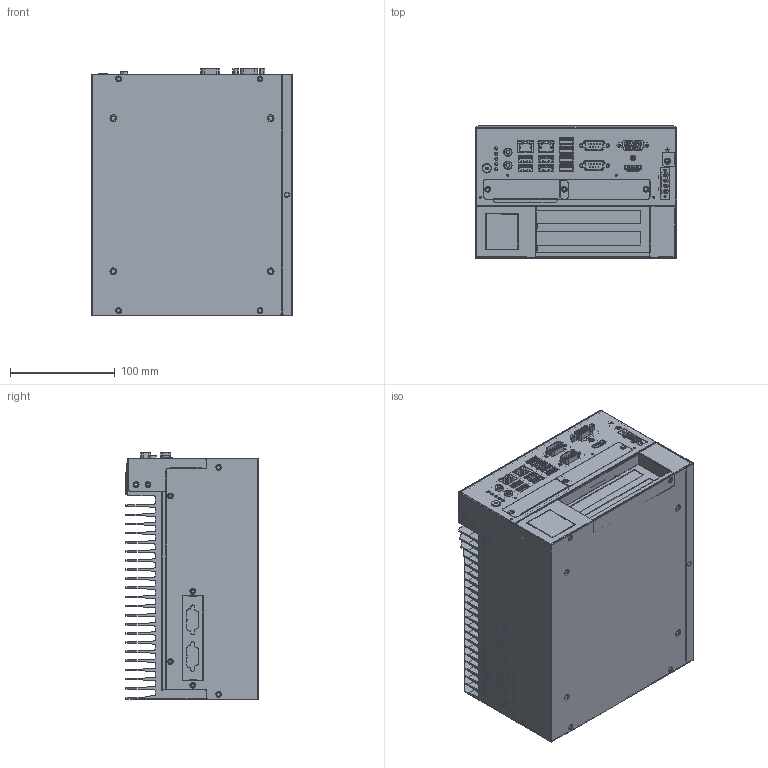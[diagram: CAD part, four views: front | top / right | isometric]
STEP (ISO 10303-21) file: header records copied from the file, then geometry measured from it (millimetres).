
FILE_DESCRIPTION((''),'2;1');
FILE_NAME('0000592122_ASM','2023-03-16T08:00:10',('11000710'),(''),'CREO PARAMETRIC BY PTC INC, 2020184','CREO PARAMETRIC BY PTC INC, 2020184','');
FILE_SCHEMA(('AUTOMOTIVE_DESIGN { 1 0 10303 214 1 1 1 1 }'));
Products named in the file (20): IDOOR_MODULE-1_IDOOR_COMX2_COVE; _X200; NONE-17743; _X100; PCBA_MIC-770-1_1654009828-58319; NONE-74276; PCBA_MIC-770-1_1654010908-02-1-; POWER_BOARD_FOR_MIC-7500-1_1652; PCBA_MIC-770-1_1654012242-01-1-; PCBA_MIC-770-1_1652006702-01-1-; FIO_COVER_SET_BKT_FOR_MIC-770-1; NONE-179396; PCBA_MIC-770-1_1600002840-1-SOL; FRONT_COVER_FOR_MIC-7500-1-SOLI; PCBA_MIC-770-1_1654010443-1-SOL; NONE-237393; PCBA_MIC-770-1_1304004572-01-1-; PCBA_MIC-770-1_165400982-248946; MIC-770_AND_MIC-75M20_WITH_MOUN_ASM; 0000592122_ASM
Assembly tree (19 placements, depth 3):
  0000592122_ASM
    MIC-770_AND_MIC-75M20_WITH_MOUN_ASM
      IDOOR_MODULE-1_IDOOR_COMX2_COVE
      _X200
      NONE-17743
      _X100
      PCBA_MIC-770-1_1654009828-58319
      NONE-74276
      PCBA_MIC-770-1_1654010908-02-1-
      POWER_BOARD_FOR_MIC-7500-1_1652
      PCBA_MIC-770-1_1654012242-01-1-
      PCBA_MIC-770-1_1652006702-01-1-
      FIO_COVER_SET_BKT_FOR_MIC-770-1
      NONE-179396
      PCBA_MIC-770-1_1600002840-1-SOL
      FRONT_COVER_FOR_MIC-7500-1-SOLI
      PCBA_MIC-770-1_1654010443-1-SOL
      NONE-237393
      PCBA_MIC-770-1_1304004572-01-1-
      PCBA_MIC-770-1_165400982-248946
Bounding box: 192 x 127 x 235.17 mm (x, y, z)
Volume: 2768179.5 mm3; surface area: 656239.6 mm2
Topology: 18 solids, 27 shells, 7778 faces, 20886 edges, 13529 vertices
Faces by surface type: plane 5930, cylinder 1444, cone 154, torus 108, extrusion 60, sphere 52, bspline 30
Entity records: 324291 total; most frequent: CARTESIAN_POINT 47483, ORIENTED_EDGE 41544, DIRECTION 40052, PRESENTATION_STYLE_ASSIGNMENT 20871, STYLED_ITEM 20871, CURVE_STYLE 20853, EDGE_CURVE 20772, VECTOR 17057
